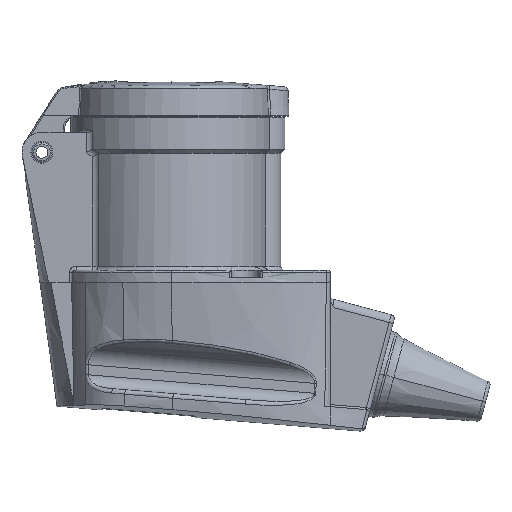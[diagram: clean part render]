
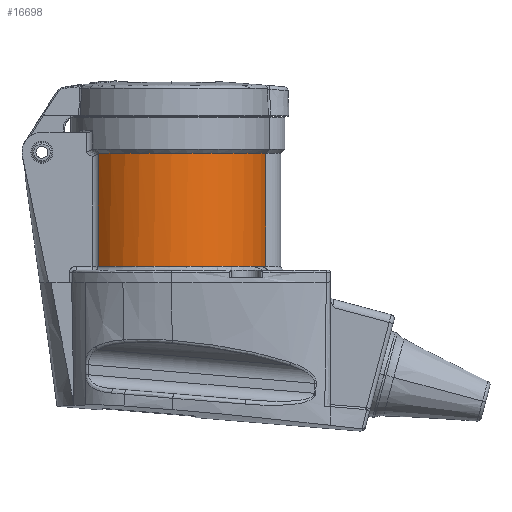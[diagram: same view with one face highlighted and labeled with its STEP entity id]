
A CAD part, left-side view. The second image highlights one B-rep face of the part: STEP entity #16698.
In plain terms, the highlighted cylindrical face has radius 24.2 mm (diameter 48.4 mm), a partial arc.
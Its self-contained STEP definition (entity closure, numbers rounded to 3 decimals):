
#640=CARTESIAN_POINT('',(-16.061,18.102,-9.1));
#658=CARTESIAN_POINT('',(0.,0.,
-9.1));
#659=DIRECTION('',(0.,0.,-1.));
#660=DIRECTION('',(-0.216,-0.976,0.));
#661=AXIS2_PLACEMENT_3D('',#658,#659,#660);
#697=CARTESIAN_POINT('',(-5.238,-23.626,
-9.1));
#5353=CARTESIAN_POINT('',(0.,0.,-37.4));
#5354=DIRECTION('',(0.,0.,1.));
#5355=DIRECTION('',(-0.649,0.761,0.));
#5356=AXIS2_PLACEMENT_3D('',#5353,#5354,#5355);
#5361=DIRECTION('',(0.,0.,1.));
#5362=VECTOR('',#5361,28.229);
#5363=CARTESIAN_POINT('',(-15.702,18.414,-37.4));
#5364=LINE('917',#5363,#5362);
#5368=CARTESIAN_POINT('',(-16.061,18.102,
-9.1));
#5369=CARTESIAN_POINT('',(-16.018,18.14,
-9.1));
#5370=CARTESIAN_POINT('',(-15.933,18.215,
-9.106));
#5371=CARTESIAN_POINT('',(-15.813,18.32,
-9.13));
#5372=CARTESIAN_POINT('',(-15.738,18.383,
-9.156));
#5373=CARTESIAN_POINT('',(-15.702,18.414,
-9.171));
#5378=DIRECTION('',(0.,0.,1.));
#5379=VECTOR('',#5378,28.3);
#5380=CARTESIAN_POINT('',(-5.238,-23.626,-37.4));
#5381=LINE('819',#5380,#5379);
#8719=VERTEX_POINT('',#697);
#8812=CARTESIAN_POINT('',(-15.702,18.414,-37.4));
#8813=CARTESIAN_POINT('',(-5.238,-23.626,-37.4));
#8814=VERTEX_POINT('',#8812);
#8815=VERTEX_POINT('',#8813);
#8921=VERTEX_POINT('',#640);
#8923=VERTEX_POINT('',#5373);
#16685=CARTESIAN_POINT('',(0.,0.,-23.2));
#16686=DIRECTION('',(0.,0.,1.));
#16687=DIRECTION('',(0.216,-0.976,0.));
#16688=AXIS2_PLACEMENT_3D('',#16685,#16686,#16687);
#16689=CYLINDRICAL_SURFACE('719',#16688,24.2);
#16691=ORIENTED_EDGE('816',*,*,#16690,.F.);
#16692=ORIENTED_EDGE('917',*,*,#16100,.T.);
#16693=ORIENTED_EDGE('896',*,*,#9995,.F.);
#16694=ORIENTED_EDGE('900',*,*,#10027,.F.);
#16695=ORIENTED_EDGE('819',*,*,#16665,.F.);
#16696=EDGE_LOOP('719',(#16691,#16692,#16693,#16694,#16695));
#16697=FACE_OUTER_BOUND('719',#16696,.F.);
#662=CIRCLE('900',#661,24.2);
#5357=CIRCLE('816',#5356,24.2);
#5374=B_SPLINE_CURVE_WITH_KNOTS('896',3,(#5368,#5369,#5370,#5371,#5372,#5373),
.UNSPECIFIED.,.F.,.F.,(4,1,1,4),(0.,0.333,0.667,1.),
.UNSPECIFIED.);
#9995=EDGE_CURVE('896',#8921,#8923,#5374,.T.);
#10027=EDGE_CURVE('900',#8719,#8921,#662,.T.);
#16100=EDGE_CURVE('917',#8814,#8923,#5364,.T.);
#16665=EDGE_CURVE('819',#8815,#8719,#5381,.T.);
#16690=EDGE_CURVE('816',#8814,#8815,#5357,.T.);
#16698=ADVANCED_FACE('719',(#16697),#16689,.T.);
